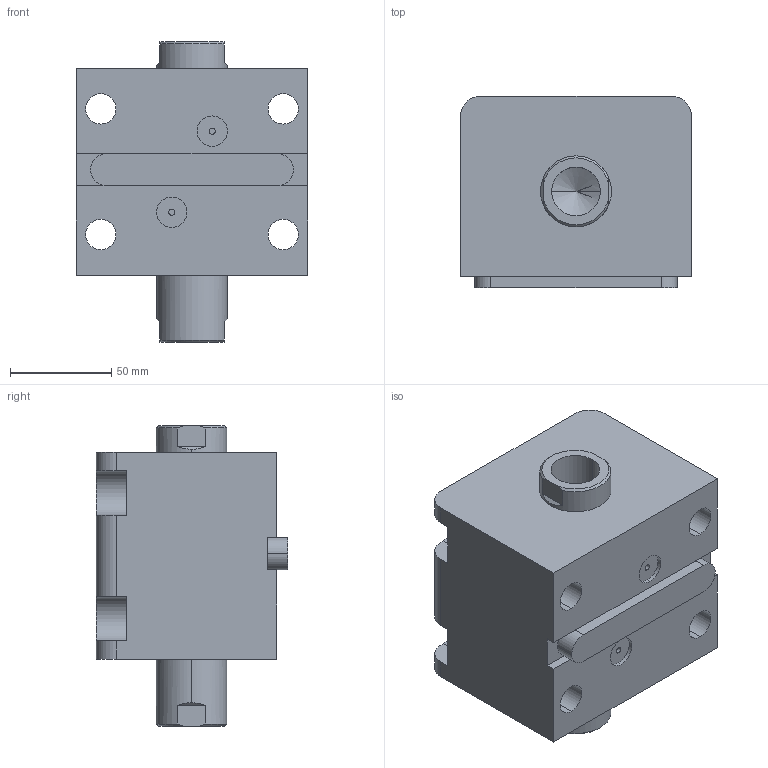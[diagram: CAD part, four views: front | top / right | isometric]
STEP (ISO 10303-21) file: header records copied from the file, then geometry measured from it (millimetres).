
FILE_DESCRIPTION (( 'STEP AP203' ), '1' );
FILE_NAME ('HTB-LWM63-20N.STEP', '2020-12-25T03:37:14', ( '微软用户' ), ( '微软中国' ), 'SwSTEP 2.0', 'SolidWorks 2012', '' );
FILE_SCHEMA (( 'CONFIG_CONTROL_DESIGN' ));
Length unit declared in the file: millimetre
Products named in the file (4): HTB-LWM63-20N; HTB-LWM63-20掛极; HTB-LWM63-20N活塞杆; HTB-LWM63-瑩
Assembly tree (3 placements, depth 2):
  HTB-LWM63-20N
    HTB-LWM63-20掛极
    HTB-LWM63-20N活塞杆
    HTB-LWM63-瑩
Bounding box: 114 x 94.5 x 148 mm (x, y, z)
Volume: 924108.6 mm3; surface area: 128878.9 mm2
Topology: 3 solids, 3 shells, 105 faces, 261 edges, 168 vertices
Faces by surface type: cylinder 45, plane 44, torus 8, cone 8
Entity records: 3571 total; most frequent: CARTESIAN_POINT 592, DIRECTION 573, ORIENTED_EDGE 514, EDGE_CURVE 257, AXIS2_PLACEMENT_3D 221, VERTEX_POINT 168, LINE 131, VECTOR 131
